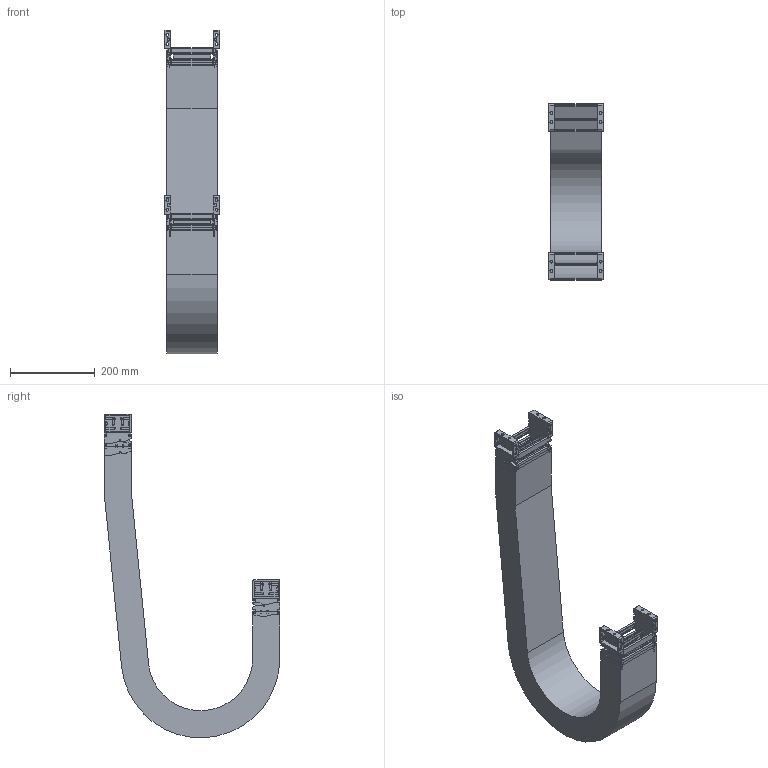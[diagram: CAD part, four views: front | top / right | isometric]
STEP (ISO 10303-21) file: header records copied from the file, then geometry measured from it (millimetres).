
FILE_DESCRIPTION((''),'2;1');
FILE_NAME('KST-50100-150_ASM','2017-12-08T',('KUNI004K'),(''),'PRO/ENGINEER BY PARAMETRIC TECHNOLOGY CORPORATION, 2015200','PRO/ENGINEER BY PARAMETRIC TECHNOLOGY CORPORATION, 2015200','');
FILE_SCHEMA(('AUTOMOTIVE_DESIGN { 1 0 10303 214 1 1 1 1 }'));
Length unit declared in the file: millimetre
Products named in the file (13): 50FBR; 50FBL; 40100C; KST50FB_W100_ASM; KST50150R; KST50150L; 40100H; KST50100-150_1_ASM; KST50100_R150_BODY; 50MBR; 50MBL; KST50MB_W100_ASM; KST-50100-150_ASM
Assembly tree (19 placements, depth 3):
  KST-50100-150_ASM
    KST50FB_W100_ASM
      50FBR
      50FBL
      40100C  x2
    KST50100-150_1_ASM  x2
      KST50150R
      KST50150L
      40100C
      40100H
    KST50100_R150_BODY
    KST50MB_W100_ASM
      50MBR
      50MBL
      40100C  x2
Bounding box: 128 x 414 x 762.32 mm (x, y, z)
Volume: 3141097.4 mm3; surface area: 1110962.1 mm2
Topology: 21 solids, 21 shells, 2824 faces, 7710 edges, 4956 vertices
Faces by surface type: plane 1470, cylinder 978, bspline 308, torus 68
Entity records: 68726 total; most frequent: CARTESIAN_POINT 13975, ORIENTED_EDGE 7352, DIRECTION 6656, PRESENTATION_STYLE_ASSIGNMENT 5016, STYLED_ITEM 5016, CURVE_STYLE 3676, EDGE_CURVE 3676, VECTOR 2376
